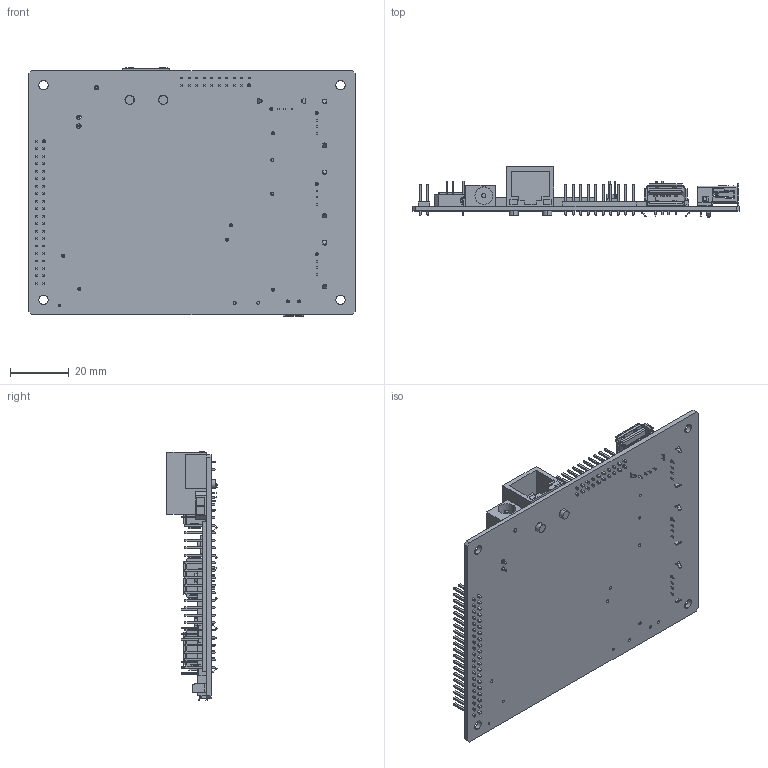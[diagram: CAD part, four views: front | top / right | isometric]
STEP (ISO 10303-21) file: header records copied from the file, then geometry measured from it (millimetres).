
FILE_DESCRIPTION (( 'STEP AP203' ), '1' );
FILE_NAME ('Assy PCB STM-100 416025420-3 240616.STEP', '2024-06-19T18:45:22', ( '' ), ( '' ), 'SwSTEP 2.0', 'SolidWorks 2023', '' );
FILE_SCHEMA (( 'CONFIG_CONTROL_DESIGN' ));
Length unit declared in the file: inch
Products named in the file (15): PCB STM-100 240614; 210082402-3 Power 2P RA; 210034106-3 Header_2.0_2x3; 210030040-3 Hdr Vert 20P 2 Rows; 210061102-3 1.25-F-2P; 212040132-3 USB-A Horz; Assy PCB STM-100 416025420-3 240616; 210502115-3 Conn RJ45 Gb wLED Filter Qi-SPEED Tech HY911130A; 210030020-3 Hdr Vert 10P 2 Rows; 212081030-3 Conn Micro SD; 210402530-5 Conn DC Pwr Jack 2.5mm; 212040520-3 Micro USB AB Type; 210021402-3 Header_2.0_2x1; 196002460-3 SW Tach HCH STS-043-A; 210094806-5 Conn 1.25 Str 6P
Assembly tree (21 placements, depth 2):
  Assy PCB STM-100 416025420-3 240616
    PCB STM-100 240614
    196002460-3 SW Tach HCH STS-043-A  x2
    210021402-3 Header_2.0_2x1  x3
    210034106-3 Header_2.0_2x3  x2
    210061102-3 1.25-F-2P
    210082402-3 Power 2P RA
    210094806-5 Conn 1.25 Str 6P
    210402530-5 Conn DC Pwr Jack 2.5mm
    212040132-3 USB-A Horz  x4
    212040520-3 Micro USB AB Type
    210030020-3 Hdr Vert 10P 2 Rows
    210030040-3 Hdr Vert 20P 2 Rows
    212081030-3 Conn Micro SD
    210502115-3 Conn RJ45 Gb wLED Filter Qi-SPEED Tech HY911130A
Bounding box: 111 x 17.07 x 84.38 mm (x, y, z)
Volume: 27685.1 mm3; surface area: 33230.8 mm2
Topology: 21 solids, 21 shells, 3351 faces, 8203 edges, 5138 vertices
Faces by surface type: plane 2683, cylinder 504, bspline 152, cone 12
Entity records: 57547 total; most frequent: CARTESIAN_POINT 10845, ORIENTED_EDGE 9242, DIRECTION 8734, EDGE_CURVE 4621, VECTOR 4124, LINE 4124, VERTEX_POINT 2870, AXIS2_PLACEMENT_3D 2305
